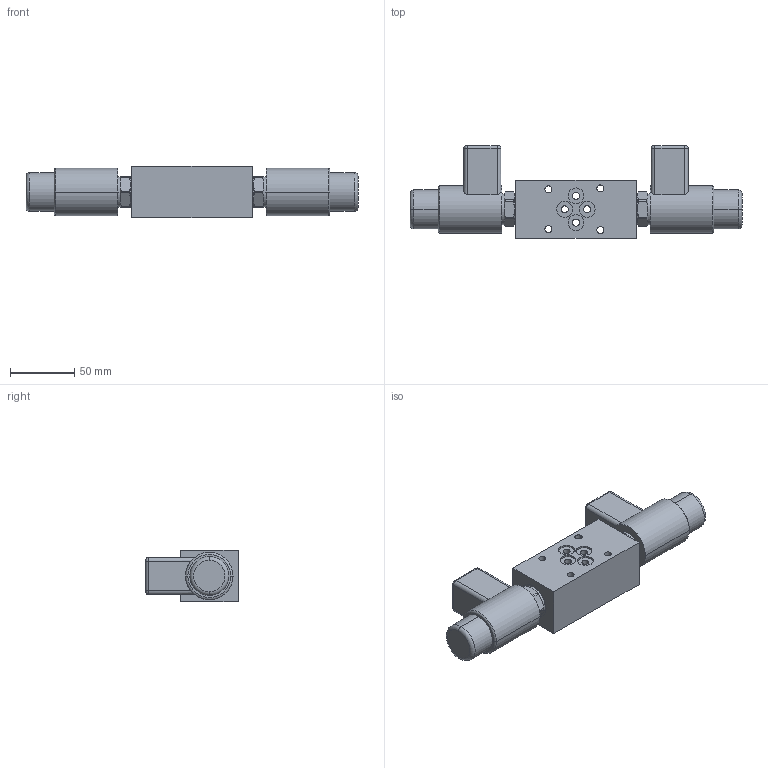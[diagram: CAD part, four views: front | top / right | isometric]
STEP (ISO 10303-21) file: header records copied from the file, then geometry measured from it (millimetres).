
FILE_DESCRIPTION((''),'2;1');
FILE_NAME('ROE3_M06','2011-03-24T',('jkoudelka'),(''),'PRO/ENGINEER BY PARAMETRIC TECHNOLOGY CORPORATION, 2010370','PRO/ENGINEER BY PARAMETRIC TECHNOLOGY CORPORATION, 2010370','');
FILE_SCHEMA(('CONFIG_CONTROL_DESIGN'));
Length unit declared in the file: millimetre
Products named in the file (1): ROE3_M06
Bounding box: 258.8 x 72 x 40 mm (x, y, z)
Volume: 360587.3 mm3; surface area: 53989.1 mm2
Topology: 1 solids, 1 shells, 176 faces, 421 edges, 262 vertices
Faces by surface type: cylinder 80, plane 44, cone 36, bspline 8, torus 8
Entity records: 6204 total; most frequent: CARTESIAN_POINT 2012, DIRECTION 915, ORIENTED_EDGE 840, EDGE_CURVE 420, AXIS2_PLACEMENT_3D 387, VERTEX_POINT 260, CIRCLE 216, EDGE_LOOP 206
